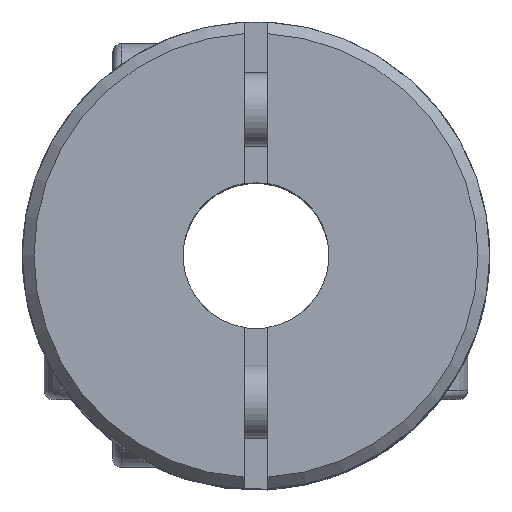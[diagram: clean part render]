
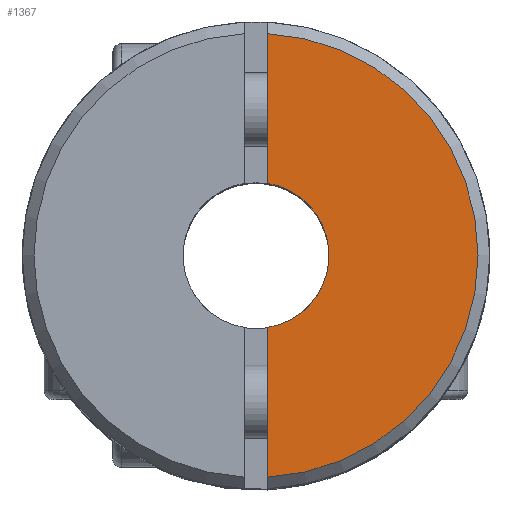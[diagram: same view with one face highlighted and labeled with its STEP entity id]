
A CAD part, top view. The second image highlights one B-rep face of the part: STEP entity #1367.
In plain terms, the highlighted planar face has unit normal (0, 0, 1).
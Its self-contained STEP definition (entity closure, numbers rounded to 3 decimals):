
#247 = ORIENTED_EDGE ( 'NONE', *, *, #941, .T. ) ;
#293 = VERTEX_POINT ( 'NONE', #1994 ) ;
#310 = AXIS2_PLACEMENT_3D ( 'NONE', #1011, #4472, #1341 ) ;
#611 = AXIS2_PLACEMENT_3D ( 'NONE', #1245, #2991, #1990 ) ;
#612 = CARTESIAN_POINT ( 'NONE',  ( 0.4, -2.468, 11.5 ) ) ;
#618 = CIRCLE ( 'NONE', #1270, 7.6 ) ;
#768 = ORIENTED_EDGE ( 'NONE', *, *, #2368, .F. ) ;
#923 = VERTEX_POINT ( 'NONE', #4427 ) ;
#941 = EDGE_CURVE ( 'NONE', #293, #4281, #2114, .T. ) ;
#1011 = CARTESIAN_POINT ( 'NONE',  ( 0., 0., 11.5 ) ) ;
#1016 = VERTEX_POINT ( 'NONE', #612 ) ;
#1032 = CARTESIAN_POINT ( 'NONE',  ( 0.4, 2.468, 11.5 ) ) ;
#1034 = DIRECTION ( 'NONE',  ( 0., 1., 0. ) ) ;
#1144 = DIRECTION ( 'NONE',  ( 0., -1., 0. ) ) ;
#1245 = CARTESIAN_POINT ( 'NONE',  ( 0., 2.5, 11.5 ) ) ;
#1270 = AXIS2_PLACEMENT_3D ( 'NONE', #2405, #2495, #1034 ) ;
#1341 = DIRECTION ( 'NONE',  ( 0., -1., 0. ) ) ;
#1367 = ADVANCED_FACE ( 'NONE', ( #1613 ), #1592, .F. ) ;
#1592 = PLANE ( 'NONE',  #611 ) ;
#1613 = FACE_OUTER_BOUND ( 'NONE', #2423, .T. ) ;
#1990 = DIRECTION ( 'NONE',  ( 0., 1., 0. ) ) ;
#1994 = CARTESIAN_POINT ( 'NONE',  ( 0.4, 7.589, 11.5 ) ) ;
#2114 = LINE ( 'NONE', #3519, #2181 ) ;
#2181 = VECTOR ( 'NONE', #1144, 1000. ) ;
#2355 = VECTOR ( 'NONE', #2706, 1000. ) ;
#2368 = EDGE_CURVE ( 'NONE', #1016, #4281, #3091, .T. ) ;
#2405 = CARTESIAN_POINT ( 'NONE',  ( 0., 0., 11.5 ) ) ;
#2423 = EDGE_LOOP ( 'NONE', ( #3473, #3619, #247, #768 ) ) ;
#2495 = DIRECTION ( 'NONE',  ( 0., 0., 1. ) ) ;
#2692 = CARTESIAN_POINT ( 'NONE',  ( 0.4, 15., 11.5 ) ) ;
#2706 = DIRECTION ( 'NONE',  ( 0., -1., 0. ) ) ;
#2723 = LINE ( 'NONE', #2692, #2355 ) ;
#2964 = EDGE_CURVE ( 'NONE', #1016, #923, #2723, .T. ) ;
#2991 = DIRECTION ( 'NONE',  ( 0., 0., -1. ) ) ;
#3033 = EDGE_CURVE ( 'NONE', #923, #293, #618, .T. ) ;
#3091 = CIRCLE ( 'NONE', #310, 2.5 ) ;
#3473 = ORIENTED_EDGE ( 'NONE', *, *, #2964, .T. ) ;
#3519 = CARTESIAN_POINT ( 'NONE',  ( 0.4, 15., 11.5 ) ) ;
#3619 = ORIENTED_EDGE ( 'NONE', *, *, #3033, .T. ) ;
#4281 = VERTEX_POINT ( 'NONE', #1032 ) ;
#4427 = CARTESIAN_POINT ( 'NONE',  ( 0.4, -7.589, 11.5 ) ) ;
#4472 = DIRECTION ( 'NONE',  ( 0., 0., 1. ) ) ;
